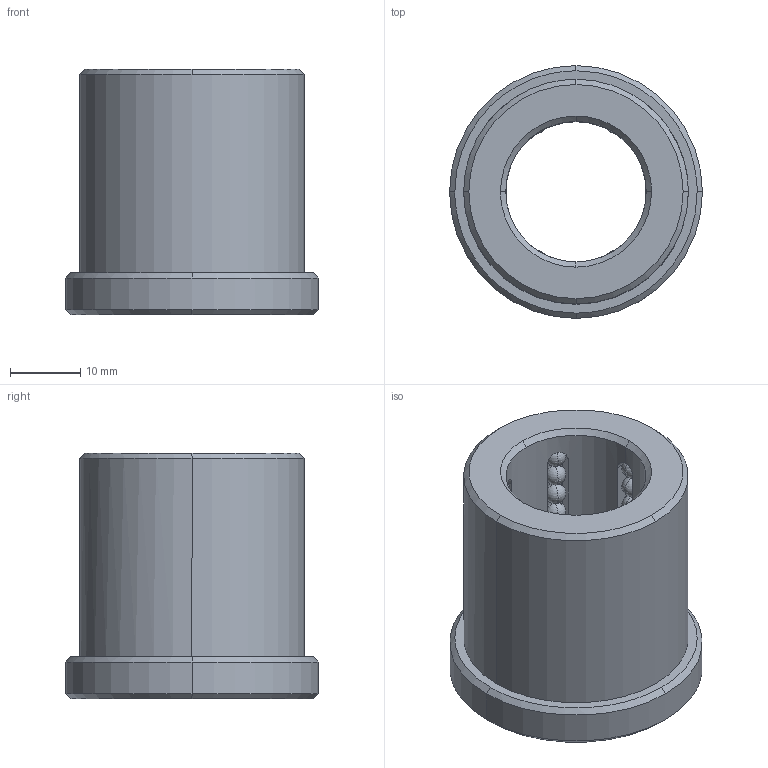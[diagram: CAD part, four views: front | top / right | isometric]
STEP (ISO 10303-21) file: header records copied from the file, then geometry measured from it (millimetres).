
FILE_DESCRIPTION(('CATIA V5 STEP Exchange'),'2;1');
FILE_NAME('C:\Users\Raffaele\Desktop\3D BOLEX\3D FILES CF BOLEX\1-BUSH REF 801\B8012035.stp','2019-06-19T13:48:32+00:00',('none'),('none'),'CATIA Version 5 Release 20 GA (IN-10)','CATIA V5 STEP AP203','none');
FILE_SCHEMA(('CONFIG_CONTROL_DESIGN'));
Length unit declared in the file: millimetre
Products named in the file (1): B8012035
Bounding box: 36 x 36 x 35 mm (x, y, z)
Volume: 17616.1 mm3; surface area: 9641.7 mm2
Topology: 55 solids, 55 shells, 271 faces, 784 edges, 196 vertices
Faces by surface type: sphere 216, plane 21, cylinder 18, cone 16
Entity records: 5487 total; most frequent: CARTESIAN_POINT 1169, DIRECTION 865, ORIENTED_EDGE 704, AXIS2_PLACEMENT_3D 523, EDGE_CURVE 352, EDGE_LOOP 278, ADVANCED_FACE 271, FACE_OUTER_BOUND 271
